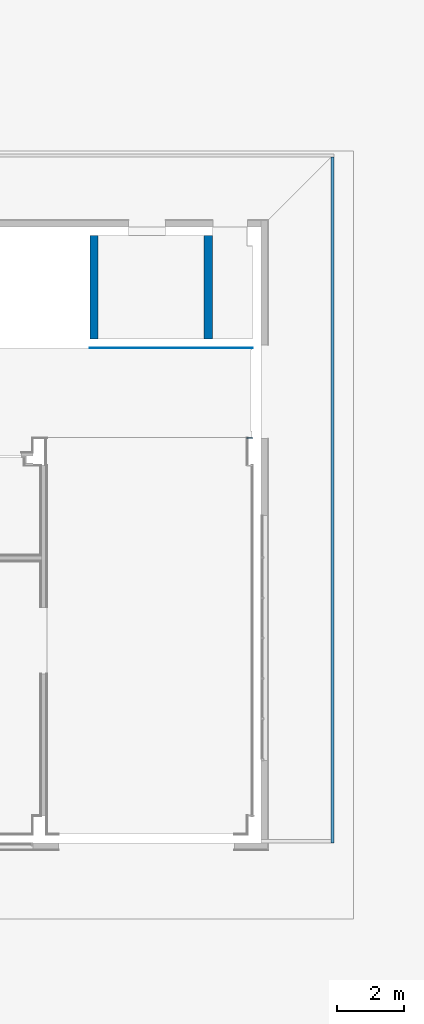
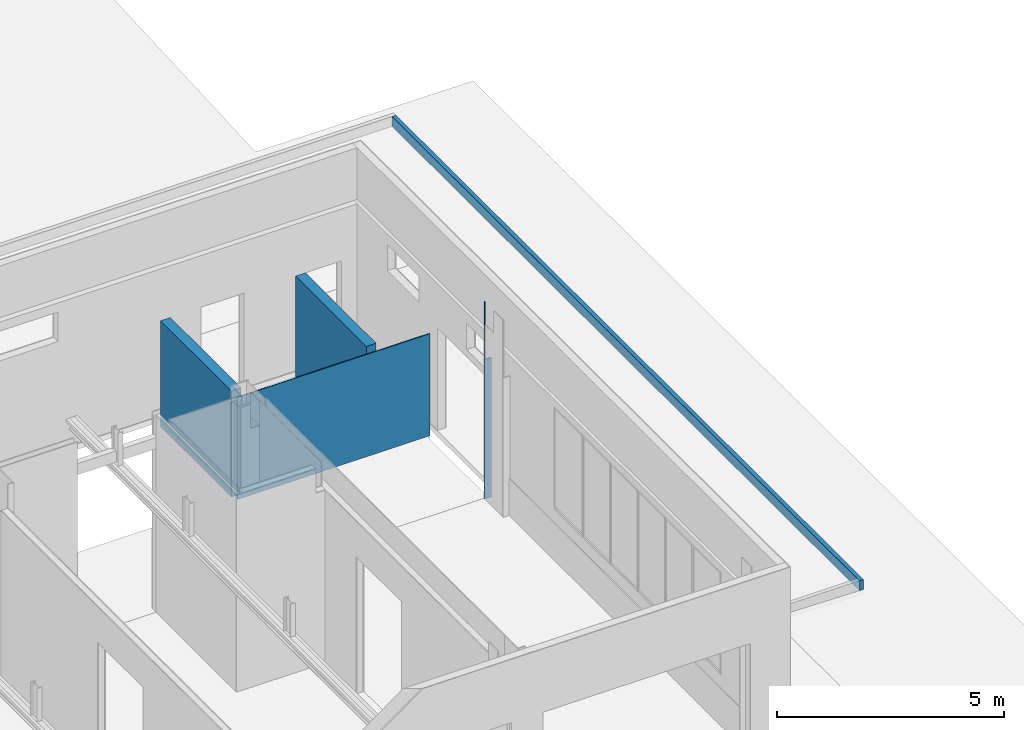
# One storey, part 18 of 27: 5 walls.
"""IFC2X3 building model written with IfcOpenShell, lengths in centimetres."""

from ifc_helpers import new_model, entity, si_unit, converted_unit, derived_unit, direction, frame, frame_2d, origin, place, context, subcontext, project, spatial, polyline, rectangle, extrude, clip, bounded_halfspace, material, layer, layer_set, layer_usage, type_object, element, save


model = new_model("IFC2X3")

# Units and contexts
model_context = context("Model", 3, precision=0.001, world=origin(), true_north=direction((6.12303176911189e-17, 1.0)))
body_context = subcontext(model_context, "Body", "Model", "MODEL_VIEW")
ifc_project = project(units=[si_unit("LENGTHUNIT", "METRE", prefix="CENTI"), si_unit("AREAUNIT", "SQUARE_METRE"), si_unit("VOLUMEUNIT", "CUBIC_METRE"), converted_unit("PLANEANGLEUNIT", "DEGREE", entity("IfcRatioMeasure", 0.0174532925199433), si_unit("PLANEANGLEUNIT", "RADIAN"), dimensions=[0, 0, 0, 0, 0, 0, 0]), si_unit("MASSUNIT", "GRAM", prefix="KILO"), derived_unit("MASSDENSITYUNIT", [(si_unit("MASSUNIT", "GRAM", prefix="KILO"), 1), (si_unit("LENGTHUNIT", "METRE"), -3)]), derived_unit("MOMENTOFINERTIAUNIT", [(si_unit("LENGTHUNIT", "METRE"), 4)]), si_unit("TIMEUNIT", "SECOND"), si_unit("FREQUENCYUNIT", "HERTZ"), si_unit("THERMODYNAMICTEMPERATUREUNIT", "DEGREE_CELSIUS"), derived_unit("THERMALTRANSMITTANCEUNIT", [(si_unit("MASSUNIT", "GRAM", prefix="KILO"), 1), (si_unit("THERMODYNAMICTEMPERATUREUNIT", "KELVIN"), -1), (si_unit("TIMEUNIT", "SECOND"), -3)]), derived_unit("VOLUMETRICFLOWRATEUNIT", [(si_unit("LENGTHUNIT", "METRE"), 3), (si_unit("TIMEUNIT", "SECOND"), -1)]), si_unit("ELECTRICCURRENTUNIT", "AMPERE"), si_unit("ELECTRICVOLTAGEUNIT", "VOLT"), si_unit("POWERUNIT", "WATT"), si_unit("FORCEUNIT", "NEWTON", prefix="KILO"), si_unit("ILLUMINANCEUNIT", "LUX"), si_unit("LUMINOUSFLUXUNIT", "LUMEN"), si_unit("LUMINOUSINTENSITYUNIT", "CANDELA"), derived_unit("USERDEFINED", [(si_unit("MASSUNIT", "GRAM", prefix="KILO"), -1), (si_unit("LENGTHUNIT", "METRE"), -2), (si_unit("TIMEUNIT", "SECOND"), 3), (si_unit("LUMINOUSFLUXUNIT", "LUMEN"), 1)]), derived_unit("LINEARVELOCITYUNIT", [(si_unit("LENGTHUNIT", "METRE"), 1), (si_unit("TIMEUNIT", "SECOND"), -1)]), si_unit("PRESSUREUNIT", "PASCAL"), derived_unit("USERDEFINED", [(si_unit("LENGTHUNIT", "METRE"), -2), (si_unit("MASSUNIT", "GRAM", prefix="KILO"), 1), (si_unit("TIMEUNIT", "SECOND"), -2)]), derived_unit("LINEARFORCEUNIT", [(si_unit("MASSUNIT", "GRAM", prefix="KILO"), 1), (si_unit("LENGTHUNIT", "METRE"), 1), (si_unit("TIMEUNIT", "SECOND"), -2), (si_unit("LENGTHUNIT", "METRE"), -1)]), derived_unit("PLANARFORCEUNIT", [(si_unit("MASSUNIT", "GRAM", prefix="KILO"), 1), (si_unit("LENGTHUNIT", "METRE"), 1), (si_unit("TIMEUNIT", "SECOND"), -2), (si_unit("LENGTHUNIT", "METRE"), -2)])], contexts=[model_context])

# Site, building, storey
site_placement = place(None, origin())
site = spatial("IfcSite", under=ifc_project, at=site_placement, Name="Default", CompositionType="ELEMENT")
building_placement = place(site_placement, origin())
building = spatial("IfcBuilding", under=site, at=building_placement, CompositionType="ELEMENT")
storey_placement = place(building_placement, origin())
storey = spatial("IfcBuildingStorey", under=building, at=storey_placement, Name="Poziom 0 A +/-0,00", CompositionType="ELEMENT", Elevation=3.38570427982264e-11)

# Walls
ifc_material_1 = material(Name="Pustak ceramiczny, klasa 15")
ifc_layer_1 = layer(ifc_material_1, 25.0)
ifc_layer_set_1 = layer_set([ifc_layer_1], Name="Ściana podstawowa:Ściana murowana gr. 25cm")
ifc_layer_usage_1 = layer_usage(ifc_layer_set_1, "AXIS2", "NEGATIVE", 12.5)
wall_type_1 = type_object("IfcWallType", Name="Ściana podstawowa:Ściana murowana gr. 25cm", PredefinedType="STANDARD", material=ifc_layer_set_1)
wall_1_placement = place(storey_placement, frame((473.734878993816, 2080.12745061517, -10.0), z_axis=(0.0, 0.0, 1.0), x_axis=(0.0, -1.0, 0.0)))
element("IfcWallStandardCase", 1, at=wall_1_placement, inside=storey, type_object=wall_type_1, material=ifc_layer_usage_1, Name="Ściana podstawowa:Ściana murowana gr. 25cm", ObjectType="Ściana podstawowa:Ściana murowana gr. 25cm", context=body_context, shape_type="SweptSolid", body=[
    extrude(rectangle(XDim=311.999998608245, YDim=24.9999999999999, at=frame_2d((155.999999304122, 0.0), x_axis=(-1.0, 0.0))), origin(), (0.0, 0.0, 1.0), 285.0),
])
ifc_layer_usage_2 = layer_usage(ifc_layer_set_1, "AXIS2", "NEGATIVE", 12.5)
wall_2_placement = place(storey_placement, frame((817.234871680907, 2080.12745023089, -10.0), z_axis=(0.0, 0.0, 1.0), x_axis=(0.0, -1.0, 0.0)))
element("IfcWallStandardCase", 2, at=wall_2_placement, inside=storey, type_object=wall_type_1, material=ifc_layer_usage_2, Name="Ściana podstawowa:Ściana murowana gr. 25cm", ObjectType="Ściana podstawowa:Ściana murowana gr. 25cm", context=body_context, shape_type="SweptSolid", body=[
    extrude(rectangle(XDim=312.000018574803, YDim=24.9999999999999, at=frame_2d((156.000009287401, 0.0), x_axis=(-1.0, 0.0))), origin(), (0.0, 0.0, 1.0), 284.999999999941),
])
ifc_material_2 = material(Name="_Beton C30/37")
ifc_layer_2 = layer(ifc_material_2, 10.0)
ifc_layer_set_2 = layer_set([ifc_layer_2], Name="Ściana podstawowa:Ściana daszku gr. 10cm")
ifc_layer_usage_3 = layer_usage(ifc_layer_set_2, "AXIS2", "NEGATIVE", 5.0)
wall_type_2 = type_object("IfcWallType", Name="Ściana podstawowa:Ściana daszku gr. 10cm", PredefinedType="STANDARD", material=ifc_layer_set_2)
wall_3_placement = place(storey_placement, frame((1190.73489460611, 2315.1274520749, 402.0), z_axis=(0.0, 0.0, 1.0), x_axis=(0.0, -1.0, 0.0)))
element("IfcWallStandardCase", 3, at=wall_3_placement, inside=storey, type_object=wall_type_2, material=ifc_layer_usage_3, Name="Ściana podstawowa:Ściana daszku gr. 10cm", ObjectType="Ściana podstawowa:Ściana daszku gr. 10cm", context=body_context, shape_type="SweptSolid", body=[
    extrude(rectangle(XDim=2059.99979446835, YDim=9.99999999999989, at=frame_2d((1029.99989723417, -7.99360577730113e-15), x_axis=(-1.0, 0.0))), origin(), (0.0, 0.0, 1.0), 26.4999999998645),
])
ifc_material_3 = material(Name="Tynk gipsowy")
ifc_layer_3 = layer(ifc_material_3, 2.5)
ifc_layer_set_3 = layer_set([ifc_layer_3], Name="Ściana podstawowa:Tynk wykończenie gr. 2,5cm")
ifc_layer_usage_4 = layer_usage(ifc_layer_set_3, "AXIS2", "NEGATIVE", 1.25)
wall_type_3 = type_object("IfcWallType", Name="Ściana podstawowa:Tynk wykończenie gr. 2,5cm", PredefinedType="STANDARD", material=ifc_layer_set_3)
wall_4_placement = place(storey_placement, frame((933.234880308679, 1471.37745218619, 0.0)))
element("IfcWallStandardCase", 4, at=wall_4_placement, inside=storey, type_object=wall_type_3, material=ifc_layer_usage_4, Name="Ściana podstawowa:Tynk wykończenie gr. 2,5cm", ObjectType="Ściana podstawowa:Tynk wykończenie gr. 2,5cm", context=body_context, shape_type="Clipping", body=[
    clip(clip(extrude(rectangle(XDim=17.5000046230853, YDim=2.49999999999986, at=frame_2d((8.75000231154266, 0.0), x_axis=(-1.0, 0.0))), origin(), (0.0, 0.0, 1.0), 529.999999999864), bounded_halfspace(frame((2.50001074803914, -1.25000000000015, 375.0), z_axis=(1.0, 0.0, 0.0), x_axis=(0.0, 0.0, -1.0)), False, frame((2.50001074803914, -1.25000000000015, 375.0), z_axis=(1.0, 0.0, 0.0), x_axis=(0.0, 0.0, -1.0)), polyline([(0.0, 0.0), (0.0, 2.50000000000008), (-155.0, 2.5000000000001), (-155.0, 0.0), (0.0, 0.0)]))), bounded_halfspace(frame((2.50001074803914, 1.24999999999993, 375.0)), False, frame((2.50001074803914, 1.24999999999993, 375.0)), polyline([(0.0, 0.0), (0.0, -2.50000000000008), (14.9999938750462, -2.50000000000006), (14.9999938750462, 0.0), (0.0, 0.0)]))),
])
ifc_layer_usage_5 = layer_usage(ifc_layer_set_3, "AXIS2", "POSITIVE", -1.25)
wall_5_placement = place(storey_placement, frame((950.735011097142, 1741.8774520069, 0.0), z_axis=(0.0, 0.0, 1.0), x_axis=(-1.0, 0.0, 0.0)))
element("IfcWallStandardCase", 5, at=wall_5_placement, inside=storey, type_object=wall_type_3, material=ifc_layer_usage_5, Name="Ściana podstawowa:Tynk wykończenie gr. 2,5cm", ObjectType="Ściana podstawowa:Tynk wykończenie gr. 2,5cm", context=body_context, shape_type="SweptSolid", body=[
    extrude(rectangle(XDim=489.500133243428, YDim=2.49999999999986, at=frame_2d((244.750066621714, 0.0), x_axis=(-1.0, 0.0))), origin(), (0.0, 0.0, 1.0), 275.0),
])

save(model, "model.ifc")
